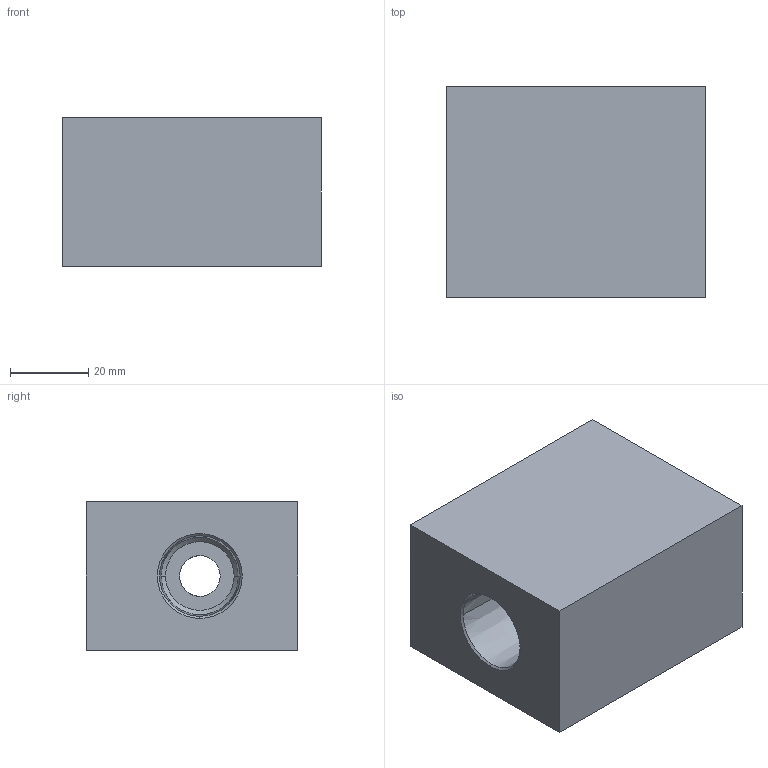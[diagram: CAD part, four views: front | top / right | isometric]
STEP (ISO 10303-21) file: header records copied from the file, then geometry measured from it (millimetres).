
FILE_DESCRIPTION (( 'STEP AP203' ), '1' );
FILE_NAME ('FTPTS08.STEP', '2026-06-26T01:46:25', ( 'USER' ), ( '' ), 'SwSTEP 2.0', 'SolidWorks 2023', '' );
FILE_SCHEMA (( 'CONFIG_CONTROL_DESIGN' ));
Length unit declared in the file: millimetre
Products named in the file (1): FTPTS08
Bounding box: 66 x 54 x 38 mm (x, y, z)
Volume: 114304.9 mm3; surface area: 20400.7 mm2
Topology: 1 solids, 1 shells, 37 faces, 87 edges, 54 vertices
Faces by surface type: cone 18, cylinder 10, plane 9
Entity records: 1152 total; most frequent: DIRECTION 201, CARTESIAN_POINT 191, ORIENTED_EDGE 174, EDGE_CURVE 87, AXIS2_PLACEMENT_3D 80, VERTEX_POINT 54, EDGE_LOOP 43, CIRCLE 42
